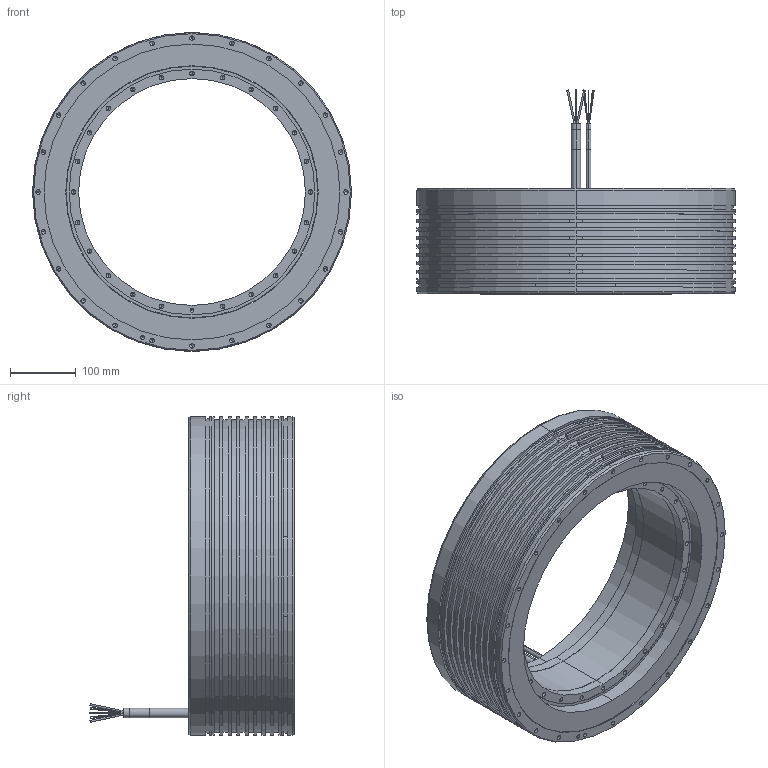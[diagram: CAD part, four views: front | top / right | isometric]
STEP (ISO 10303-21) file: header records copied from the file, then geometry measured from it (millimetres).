
FILE_DESCRIPTION (( 'STEP AP203' ), '1' );
FILE_NAME ('TM-2-DA.STEP', '2023-08-03T03:08:54', ( '' ), ( '' ), 'SwSTEP 2.0', 'SolidWorks 2015', '' );
FILE_SCHEMA (( 'CONFIG_CONTROL_DESIGN' ));
Length unit declared in the file: millimetre
Products named in the file (3): TM-2-DA; TM-2-DX_stator_TM-2-DA_stator; TM-2-DX_rotor_TM-2-DA_rotor
Assembly tree (2 placements, depth 2):
  TM-2-DA
    TM-2-DX_stator_TM-2-DA_stator
    TM-2-DX_rotor_TM-2-DA_rotor
Bounding box: 485 x 310.29 x 485 mm (x, y, z)
Volume: 12495510.9 mm3; surface area: 1023972.7 mm2
Topology: 2 solids, 2 shells, 568 faces, 1368 edges, 734 vertices
Faces by surface type: cylinder 295, cone 204, plane 69
Entity records: 15425 total; most frequent: DIRECTION 2856, CARTESIAN_POINT 2621, ORIENTED_EDGE 2344, EDGE_CURVE 1172, AXIS2_PLACEMENT_3D 1139, VERTEX_POINT 734, EDGE_LOOP 700, VECTOR 578
